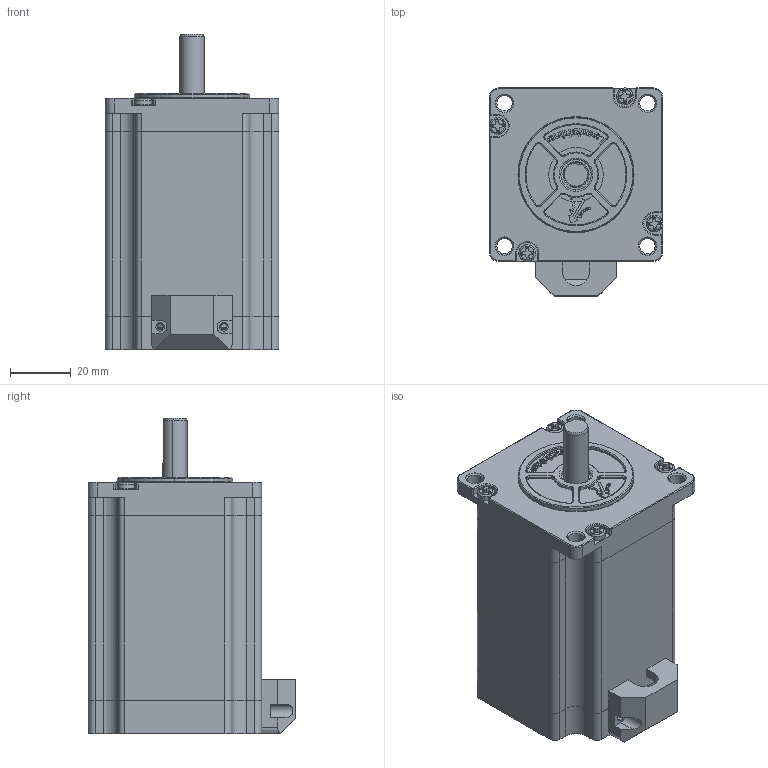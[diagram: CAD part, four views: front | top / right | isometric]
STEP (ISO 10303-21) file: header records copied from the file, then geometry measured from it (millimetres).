
FILE_DESCRIPTION (( 'STEP AP203' ), '1' );
FILE_NAME ('57CM26C.STEP', '2021-04-22T06:14:56', ( 'Owner' ), ( 'Organization' ), 'SwSTEP 2.0', 'SolidWorks 2018', '' );
FILE_SCHEMA (( 'CONFIG_CONTROL_DESIGN' ));
Length unit declared in the file: millimetre
Products named in the file (12): 608ZZ_1; DZTX57HSD53-S1_1; 57CM26C; M3x72_1; Z57HS76MD21B15-04_1_1; GJ57HSD26-S01_1; 耳12-耳8-4.7_1; DG57HSD-004-S03_1; DG57HSD-005-S05_1; ZZ57HS076DF038X-S2_1; YXB 57S-朴6.2FC-02.step_1; 耳12-耳8-5.5_1
Assembly tree (16 placements, depth 3):
  57CM26C
    GJ57HSD26-S01_1  x2
    ZZ57HS076DF038X-S2_1
      Z57HS76MD21B15-04_1_1
      608ZZ_1  x2
      耳12-耳8-5.5_1
      耳12-耳8-4.7_1
    DG57HSD-005-S05_1
    DG57HSD-004-S03_1
    M3x72_1  x4
    YXB 57S-朴6.2FC-02.step_1
    DZTX57HSD53-S1_1
Bounding box: 57.22 x 68.51 x 104 mm (x, y, z)
Volume: 134368.9 mm3; surface area: 112738.6 mm2
Topology: 15 solids, 15 shells, 2429 faces, 6683 edges, 4270 vertices
Faces by surface type: cylinder 1098, plane 973, torus 138, bspline 89, cone 67, sphere 64
Entity records: 64825 total; most frequent: CARTESIAN_POINT 18090, ORIENTED_EDGE 10080, DIRECTION 8730, EDGE_CURVE 5040, VERTEX_POINT 3252, AXIS2_PLACEMENT_3D 3043, LINE 2644, VECTOR 2644
